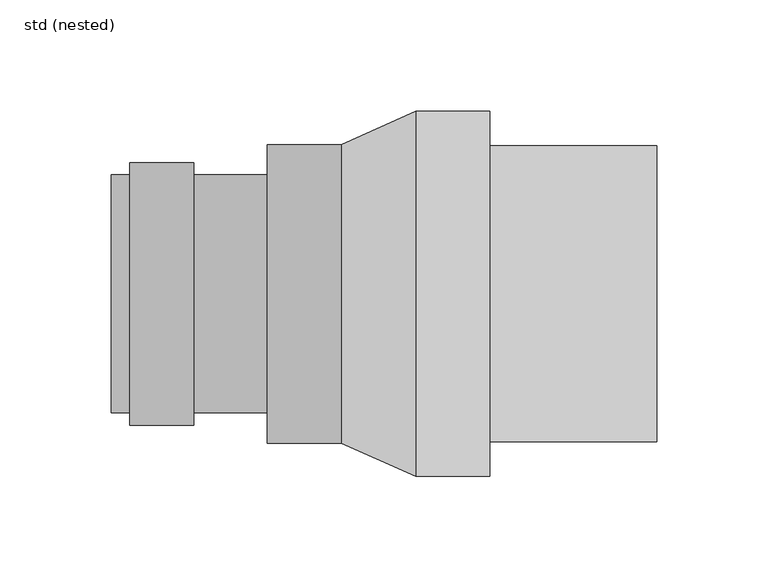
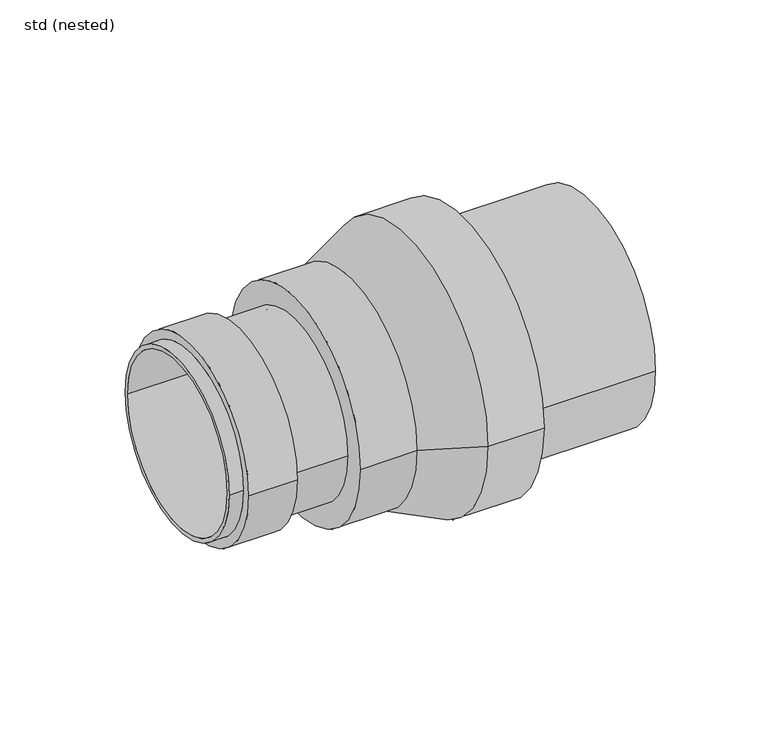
"""IFC4 building model written with IfcOpenShell, lengths in millimetres: pipe fitting geometry, ZZZ_do not use_PIF_ST_WPB_GM-X compound pipe reducer_ACO : std (nested)."""

from ifc_helpers import new_model, si_unit, point, frame, origin, origin_2d, place, context, project, spatial, polyline, circle_curve, trimmed, segment, composite_curve, outline, extrude, source, transform, mapped, element, save
from ifc_brep_helpers import plane_surface, cylinder_surface, revolved_surface, advanced_brep


def std_nested_284e0d50(model_context):
    return source(origin(), model_context, "Body", "SolidModel", [
        advanced_brep(
        [(-236.7, -59.0, 0.0), (-236.7, 59.0, 0.0), (-208.0, 59.0, 0.0), (-208.0, -59.0, 0.0), (-245.0, 53.5, 0.0), (-245.0, -53.5, 0.0), (-245.0, -51.0, 0.0), (-245.0, 51.0, 0.0), (-175.0, 53.5, 0.0), (-175.0, -53.5, 0.0), (-175.0, 51.0, 0.0), (-175.0, -51.0, 0.0), (-236.7, 53.5, 0.0), (-236.7, -53.5, 0.0), (-208.0, -53.5, 0.0), (-208.0, 53.5, 0.0)],
        [
            (0, 1, circle_curve(frame((-236.7, 0.0, 0.0), z_axis=(1.0, 0.0, 0.0), x_axis=(0.0, -1.0, 0.0)), 59.0)),
            (1, 2),
            (2, 3, circle_curve(frame((-208.0, 0.0, 0.0), z_axis=(-1.0, 0.0, 0.0), x_axis=(0.0, -1.0, 0.0)), 59.0)),
            (3, 0),
            (1, 0, circle_curve(frame((-236.7, 0.0, 0.0), z_axis=(1.0, 0.0, 0.0), x_axis=(0.0, -1.0, 0.0)), 59.0)),
            (3, 2, circle_curve(frame((-208.0, 0.0, 0.0), z_axis=(-1.0, 0.0, 0.0), x_axis=(0.0, -1.0, 0.0)), 59.0)),
            (4, 5, circle_curve(frame((-245.0, 0.0, 0.0), z_axis=(-1.0, 0.0, 0.0), x_axis=(0.0, -1.0, 0.0)), 53.5)),
            (5, 4, circle_curve(frame((-245.0, 0.0, 0.0), z_axis=(-1.0, 0.0, 0.0), x_axis=(0.0, -1.0, 0.0)), 53.5)),
            (6, 7, circle_curve(frame((-245.0, 0.0, 0.0), z_axis=(1.0, 0.0, 0.0), x_axis=(0.0, -1.0, 0.0)), 51.0)),
            (7, 6, circle_curve(frame((-245.0, 0.0, 0.0), z_axis=(1.0, 0.0, 0.0), x_axis=(0.0, -1.0, 0.0)), 51.0)),
            (8, 9, circle_curve(frame((-175.0, 0.0, 0.0), z_axis=(1.0, 0.0, 0.0), x_axis=(0.0, -1.0, 0.0)), 53.5)),
            (9, 8, circle_curve(frame((-175.0, 0.0, 0.0), z_axis=(1.0, 0.0, 0.0), x_axis=(0.0, -1.0, 0.0)), 53.5)),
            (10, 11, circle_curve(frame((-175.0, 0.0, 0.0), z_axis=(-1.0, 0.0, 0.0), x_axis=(0.0, -1.0, 0.0)), 51.0)),
            (11, 10, circle_curve(frame((-175.0, 0.0, 0.0), z_axis=(-1.0, 0.0, 0.0), x_axis=(0.0, -1.0, 0.0)), 51.0)),
            (4, 12),
            (12, 13, circle_curve(frame((-236.7, 0.0, 0.0), z_axis=(-1.0, 0.0, 0.0), x_axis=(0.0, -1.0, 0.0)), 53.5)),
            (13, 5),
            (9, 14),
            (14, 15, circle_curve(frame((-208.0, 0.0, 0.0), z_axis=(1.0, 0.0, 0.0), x_axis=(0.0, -1.0, 0.0)), 53.5)),
            (15, 8),
            (13, 12, circle_curve(frame((-236.7, 0.0, 0.0), z_axis=(-1.0, 0.0, 0.0), x_axis=(0.0, -1.0, 0.0)), 53.5)),
            (15, 14, circle_curve(frame((-208.0, 0.0, 0.0), z_axis=(1.0, 0.0, 0.0), x_axis=(0.0, -1.0, 0.0)), 53.5)),
            (6, 11),
            (10, 7),
        ],
        [
            cylinder_surface(frame((-208.0, 0.0, 0.0), z_axis=(-1.0, 0.0, 0.0), x_axis=(0.0, -1.0, 0.0)), 59.0),
            plane_surface(frame((-245.0, -53.5, 0.0), z_axis=(-1.0, 0.0, 0.0), x_axis=(0.0, 0.0, 1.0))),
            plane_surface(frame((-175.0, -53.5, 0.0), z_axis=(1.0, 0.0, 0.0), x_axis=(0.0, 0.0, -1.0))),
            cylinder_surface(frame((-175.0, 0.0, 0.0), z_axis=(-1.0, 0.0, 0.0), x_axis=(0.0, -1.0, 0.0)), 53.5),
            revolved_surface(polyline([(-245.0, -51.0, 0.0), (-175.0, -51.0, 0.0)]), (-175.0, 0.0, 0.0), (-1.0, 0.0, 0.0)),
            plane_surface(frame((-236.7, -59.0, 0.0), z_axis=(-1.0, 0.0, 0.0), x_axis=(0.0, 0.0, 1.0))),
            plane_surface(frame((-208.0, -59.0, 0.0), z_axis=(1.0, 0.0, 0.0), x_axis=(0.0, 0.0, -1.0))),
        ],
        [
            (0, [[1, 2, 3, 4]]),
            (0, [[5, -4, 6, -2]]),
            (1, [[7, 8], [9, 10]]),
            (2, [[11, 12], [13, 14]]),
            (3, [[-7, 15, 16, 17]]),
            (3, [[-12, 18, 19, 20]]),
            (3, [[-8, -17, 21, -15]]),
            (3, [[-11, -20, 22, -18]]),
            (4, [[23, -13, 24, -9]]),
            (4, [[-23, -10, -24, -14]]),
            (5, [[-1, -5], [-16, -21]]),
            (6, [[-6, -3], [-19, -22]]),
        ],
    ),
        advanced_brep(
        [(-141.6666667, -67.0, 0.0), (-141.6666667, 67.0, 0.0), (-175.0, 67.0, 0.0), (-175.0, -67.0, 0.0), (-108.3333333, 82.0, 0.0), (-108.3333333, -82.0, 0.0), (-75.0, 82.0, 0.0), (-75.0, -82.0, 0.0)],
        [
            (0, 1, circle_curve(frame((-141.6666667, 0.0, 0.0), z_axis=(-1.0, 0.0, 0.0), x_axis=(0.0, 1.0, 0.0)), 67.0)),
            (1, 2),
            (2, 3, circle_curve(frame((-175.0, 0.0, 0.0), z_axis=(1.0, 0.0, 0.0), x_axis=(0.0, 1.0, 0.0)), 67.0)),
            (3, 0),
            (1, 0, circle_curve(frame((-141.6666667, 0.0, 0.0), z_axis=(-1.0, 0.0, 0.0), x_axis=(0.0, 1.0, 0.0)), 67.0)),
            (3, 2, circle_curve(frame((-175.0, 0.0, 0.0), z_axis=(1.0, 0.0, 0.0), x_axis=(0.0, 1.0, 0.0)), 67.0)),
            (1, 4),
            (4, 5, circle_curve(frame((-108.3333333, 0.0, 0.0), z_axis=(-1.0, 0.0, 0.0), x_axis=(0.0, -1.0, 0.0)), 82.0)),
            (5, 0),
            (5, 4, circle_curve(frame((-108.3333333, 0.0, 0.0), z_axis=(-1.0, 0.0, 0.0), x_axis=(0.0, 1.0, 0.0)), 82.0)),
            (6, 7, circle_curve(frame((-75.0, 0.0, 0.0), z_axis=(1.0, 0.0, 0.0), x_axis=(0.0, -1.0, 0.0)), 82.0)),
            (7, 6, circle_curve(frame((-75.0, 0.0, 0.0), z_axis=(1.0, 0.0, 0.0), x_axis=(0.0, -1.0, 0.0)), 82.0)),
            (6, 4),
            (5, 7),
        ],
        [
            cylinder_surface(frame((-141.6666667, 0.0, 0.0), z_axis=(-1.0, 0.0, 0.0), x_axis=(0.0, 1.0, 0.0)), 67.0),
            plane_surface(frame((-175.0, 67.0, 0.0), z_axis=(-1.0, 0.0, 0.0), x_axis=(0.0, 0.0, 1.0))),
            revolved_surface(polyline([(-141.6666667, 66.99999997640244, 0.0), (-108.33333329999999, 82.0, 0.0)]), (-290.5555556, 0.0, 0.0), (1.0, 0.0, 0.0)),
            plane_surface(frame((-75.0, -82.0, 0.0), z_axis=(1.0, 0.0, 0.0), x_axis=(0.0, 0.0, -1.0))),
            cylinder_surface(frame((-108.3333333, 0.0, 0.0), z_axis=(1.0, 0.0, 0.0), x_axis=(0.0, -1.0, 0.0)), 82.0),
        ],
        [
            (0, [[1, 2, 3, 4]]),
            (0, [[5, -4, 6, -2]]),
            (1, [[-3, -6]]),
            (2, [[7, 8, 9, -5]]),
            (2, [[-7, -1, -9, 10]]),
            (3, [[11, 12]]),
            (4, [[-11, 13, -10, 14]]),
            (4, [[-12, -14, -8, -13]]),
        ],
    ),
        extrude(outline(composite_curve([segment(trimmed(circle_curve(origin_2d(), 66.5), [point((66.5, 0.0))], [point((-66.5, 0.0))], False, "CARTESIAN"), True, "CONTINUOUS"), segment(trimmed(circle_curve(origin_2d(), 66.5), [point((-66.5, 0.0))], [point((66.5, 0.0))], False, "CARTESIAN"), True, "CONTINUOUS")], self_intersect=False)), frame((-75.0, 0.0, 0.0), z_axis=(1.0, 0.0, 0.0), x_axis=(0.0, 1.0, 0.0)), (0.0, 0.0, 1.0), 75.0),
    ])


if __name__ == "__main__":
    model = new_model("IFC4")
    model_context = context("Model", 3, world=origin())
    ifc_project = project(units=[si_unit("LENGTHUNIT", "METRE", prefix="MILLI")], contexts=[model_context])
    site = spatial("IfcSite", under=ifc_project)
    building = spatial("IfcBuilding", under=site)
    placement = place(None, origin())
    std_nested_shape = std_nested_284e0d50(model_context)
    element("IfcPipeFitting", 1, ObjectType="ZZZ_do not use_PIF_ST_WPB_GM-X compound pipe reducer_ACO : std (nested)", at=placement, inside=building, context=model_context, shape_type="MappedRepresentation", body=[
        mapped(std_nested_shape, transform((0.0, 0.0, 0.0), x_axis=(1.0, 0.0, 0.0), y_axis=(0.0, 1.0, 0.0), z_axis=(0.0, 0.0, 1.0))),
    ])
    save(model, "model.ifc")
